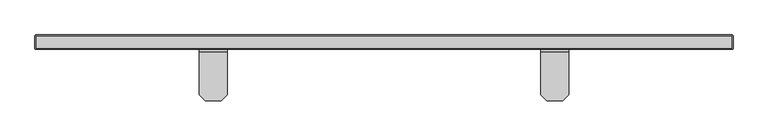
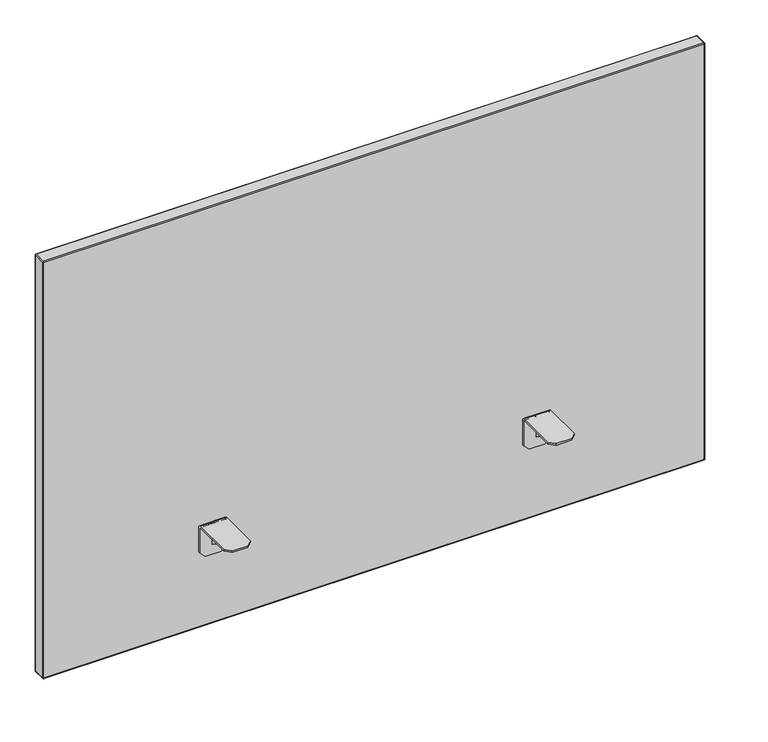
"""IFC4 building model written with IfcOpenShell, lengths in millimetres: furniture geometry, FREZZA_POP AD_Screen-for desk_Fabric : W1200 mm Structure_ZGBI - Embossed White & Finishing_D-King flex_XFGC."""

from ifc_helpers import new_model, si_unit, frame, origin, place, context, project, spatial, polyline, circle_curve, ellipse_curve, source, transform, mapped, element, save
from ifc_brep_helpers import plane_surface, cylinder_surface, revolved_surface, advanced_brep


def furniture_de1b5e3a(model_context):
    return source(origin(), model_context, "Body", "AdvancedBrep", [
        advanced_brep(
        [(1257.5, -8.0540949, 1185.0), (1257.5, -81.55, 1185.0), (1257.5, -81.55, 1182.0), (1257.5, -8.0035457, 1182.0), (1257.5, -6.55, 1180.5464543), (1257.5, -6.55, 1133.0), (1257.5, -3.55, 1133.0), (1257.5, -3.55, 1180.4959051), (1209.5, -8.0035457, 1182.0), (1209.5, -81.55, 1182.0), (1209.5, -81.55, 1185.0), (1209.5, -8.0540949, 1185.0), (1209.5, -3.55, 1180.4959051), (1209.5, -3.55, 1133.0), (1209.5, -6.55, 1133.0), (1209.5, -6.55, 1180.5464543), (1219.5, -91.55, 1185.0), (1247.5, -91.55, 1185.0), (1247.5, -3.55, 1123.0), (1219.5, -3.55, 1123.0), (1247.5, -6.55, 1123.0), (1219.5, -6.55, 1123.0), (1235.0, -6.55, 1180.5464543), (1235.0, -6.55, 1142.0), (1232.0, -6.55, 1142.0), (1232.0, -6.55, 1180.5464543), (1232.0, -8.0035457, 1182.0), (1235.0, -8.0035457, 1182.0), (1247.5, -91.55, 1182.0), (1219.5, -91.55, 1182.0), (1232.0, -69.55, 1182.0), (1235.0, -69.55, 1182.0)],
        [
            (0, 1),
            (1, 2),
            (2, 3),
            (3, 4, circle_curve(frame((1257.5, -8.0035457, 1180.5464543), z_axis=(-1.0, 0.0, 0.0), x_axis=(0.0, -1.0, 0.0)), 1.4535457)),
            (4, 5),
            (5, 6),
            (6, 7),
            (7, 0, circle_curve(frame((1257.5, -8.0540949, 1180.4959051), z_axis=(1.0, 0.0, 0.0), x_axis=(0.0, -1.0, 0.0)), 4.5040949)),
            (8, 9),
            (9, 10),
            (10, 11),
            (11, 12, circle_curve(frame((1209.5, -8.0540949, 1180.4959051), z_axis=(-1.0, 0.0, 0.0), x_axis=(0.0, -1.0, 0.0)), 4.5040949)),
            (12, 13),
            (13, 14),
            (14, 15),
            (15, 8, circle_curve(frame((1209.5, -8.0035457, 1180.5464543), z_axis=(1.0, 0.0, 0.0), x_axis=(0.0, -1.0, 0.0)), 1.4535457)),
            (10, 16),
            (16, 17),
            (17, 1),
            (0, 11),
            (7, 12),
            (6, 18),
            (18, 19),
            (19, 13),
            (18, 20),
            (20, 21),
            (21, 19),
            (4, 22),
            (22, 23),
            (23, 24),
            (24, 25),
            (25, 15),
            (14, 21),
            (20, 5),
            (25, 26, circle_curve(frame((1232.0, -8.0035457, 1180.5464543), z_axis=(1.0, 0.0, 0.0), x_axis=(0.0, -1.0, 0.0)), 1.4535457)),
            (26, 8),
            (3, 27),
            (27, 22, circle_curve(frame((1235.0, -8.0035457, 1180.5464543), z_axis=(-1.0, 0.0, 0.0), x_axis=(0.0, -1.0, 0.0)), 1.4535457)),
            (2, 28),
            (28, 29),
            (29, 9),
            (26, 30),
            (30, 31),
            (31, 27),
            (16, 29),
            (28, 17),
            (31, 23),
            (24, 30),
        ],
        [
            plane_surface(frame((1257.5, 1478.3708958, 1185.0), z_axis=(1.0, 0.0, 0.0), x_axis=(0.0, 1.0, 0.0))),
            plane_surface(frame((1209.5, 1478.3708958, 1185.0), z_axis=(-1.0, 0.0, 0.0), x_axis=(0.0, -1.0, 0.0))),
            plane_surface(frame((1257.5, -91.55, 1185.0), z_axis=(0.0, 0.0, 1.0), x_axis=(-1.0, 0.0, 0.0))),
            cylinder_surface(frame((1209.5, -8.0540949, 1180.4959051), z_axis=(1.0, 0.0, 0.0), x_axis=(0.0, -1.0, 0.0)), 4.5040949),
            plane_surface(frame((1257.5, -3.55, 1180.4959051), z_axis=(0.0, 1.0, 0.0), x_axis=(-1.0, 0.0, 0.0))),
            plane_surface(frame((1257.5, -3.55, 1123.0), z_axis=(0.0, 0.0, -1.0), x_axis=(-1.0, 0.0, 0.0))),
            plane_surface(frame((1257.5, -6.55, 1123.0), z_axis=(0.0, -1.0, 0.0), x_axis=(-1.0, 0.0, 0.0))),
            revolved_surface(polyline([(1209.5, -9.4570914, 1180.5464543), (1232.0, -9.4570914, 1180.5464543)]), (1209.5, -8.0035457, 1180.5464543), (-1.0, 0.0, 0.0)),
            revolved_surface(polyline([(1235.0, -9.4570914, 1180.5464543), (1257.5, -9.4570914, 1180.5464543)]), (1209.5, -8.0035457, 1180.5464543), (-1.0, 0.0, 0.0)),
            plane_surface(frame((1257.5, -8.0035457, 1182.0), z_axis=(0.0, 0.0, -1.0), x_axis=(-1.0, 0.0, 0.0))),
            plane_surface(frame((1257.5, -91.55, 1182.0), z_axis=(0.0, -1.0, 0.0), x_axis=(-1.0, 0.0, 0.0))),
            plane_surface(frame((1257.5, -3.55, 1133.0), z_axis=(0.7071067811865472, 0.0, -0.7071067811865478), x_axis=(0.0, -1.0, 0.0))),
            plane_surface(frame((1219.5, -3.55, 1123.0), z_axis=(-0.7071067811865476, 0.0, -0.7071067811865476), x_axis=(0.0, -1.0, 0.0))),
            plane_surface(frame((1247.5, -91.55, 1185.0), z_axis=(0.7071067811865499, -0.7071067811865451, 0.0), x_axis=(0.0, 0.0, -1.0))),
            plane_surface(frame((1209.5, -81.55, 1185.0), z_axis=(-0.7071067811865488, -0.7071067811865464, 0.0), x_axis=(0.0, 0.0, -1.0))),
            plane_surface(frame((1235.0, -69.55, 1182.0), z_axis=(1.0000000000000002, 0.0, 0.0), x_axis=(0.0, -0.8442128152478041, 0.5360081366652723))),
            plane_surface(frame((1232.0, -69.55, 1182.0), z_axis=(-1.0000000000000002, 0.0, 0.0), x_axis=(0.0, 0.8442128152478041, -0.5360081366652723))),
            plane_surface(frame((1235.0, -6.55, 1142.0), z_axis=(0.0, -0.5360081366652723, -0.8442128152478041), x_axis=(-1.0, 0.0, 0.0))),
        ],
        [
            (0, [[1, 2, 3, 4, 5, 6, 7, 8]]),
            (1, [[9, 10, 11, 12, 13, 14, 15, 16]]),
            (2, [[-11, 17, 18, 19, -1, 20]]),
            (3, [[21, -12, -20, -8]]),
            (4, [[-7, 22, 23, 24, -13, -21]]),
            (5, [[25, 26, 27, -23]]),
            (6, [[28, 29, 30, 31, 32, -15, 33, -26, 34, -5]]),
            (7, [[-32, 35, 36, -16]]),
            (8, [[37, 38, -28, -4]]),
            (9, [[39, 40, 41, -9, -36, 42, 43, 44, -37, -3]]),
            (10, [[45, -40, 46, -18]]),
            (11, [[-34, -25, -22, -6]]),
            (12, [[-24, -27, -33, -14]]),
            (13, [[-19, -46, -39, -2]]),
            (14, [[-41, -45, -17, -10]]),
            (15, [[-29, -38, -44, 47]]),
            (16, [[-42, -35, -31, 48]]),
            (17, [[-43, -48, -30, -47]]),
        ],
    ),
        advanced_brep(
        [(622.5, -8.0540949, 1185.0), (622.5, -3.55, 1180.4959051), (622.5, -3.55, 1133.0), (622.5, -6.55, 1133.0), (622.5, -6.55, 1180.5464543), (622.5, -8.0035457, 1182.0), (622.5, -81.55, 1182.0), (622.5, -81.55, 1185.0), (670.5, -8.0035457, 1182.0), (670.5, -6.55, 1180.5464543), (670.5, -6.55, 1133.0), (670.5, -3.55, 1133.0), (670.5, -3.55, 1180.4959051), (670.5, -8.0540949, 1185.0), (670.5, -81.55, 1185.0), (670.5, -81.55, 1182.0), (632.5, -91.55, 1185.0), (660.5, -91.55, 1185.0), (660.5, -3.55, 1123.0), (632.5, -3.55, 1123.0), (660.5, -6.55, 1123.0), (632.5, -6.55, 1123.0), (648.0, -6.55, 1180.5464543), (648.0, -6.55, 1142.0), (645.0, -6.55, 1142.0), (645.0, -6.55, 1180.5464543), (645.0, -8.0035457, 1182.0), (648.0, -8.0035457, 1182.0), (645.0, -69.55, 1182.0), (648.0, -69.55, 1182.0), (660.5, -91.55, 1182.0), (632.5, -91.55, 1182.0)],
        [
            (0, 1, circle_curve(frame((622.5, -8.0540949, 1180.4959051), z_axis=(-1.0, 0.0, 0.0), x_axis=(0.0, -1.0, 0.0)), 4.5040949)),
            (1, 2),
            (2, 3),
            (3, 4),
            (4, 5, circle_curve(frame((622.5, -8.0035457, 1180.5464543), z_axis=(1.0, 0.0, 0.0), x_axis=(0.0, -1.0, 0.0)), 1.4535457)),
            (5, 6),
            (6, 7),
            (7, 0),
            (8, 9, circle_curve(frame((670.5, -8.0035457, 1180.5464543), z_axis=(-1.0, 0.0, 0.0), x_axis=(0.0, -1.0, 0.0)), 1.4535457)),
            (9, 10),
            (10, 11),
            (11, 12),
            (12, 13, circle_curve(frame((670.5, -8.0540949, 1180.4959051), z_axis=(1.0, 0.0, 0.0), x_axis=(0.0, -1.0, 0.0)), 4.5040949)),
            (13, 14),
            (14, 15),
            (15, 8),
            (13, 0),
            (7, 16),
            (16, 17),
            (17, 14),
            (12, 1),
            (11, 18),
            (18, 19),
            (19, 2),
            (18, 20),
            (20, 21),
            (21, 19),
            (3, 21),
            (20, 10),
            (9, 22),
            (22, 23),
            (23, 24),
            (24, 25),
            (25, 4),
            (25, 26, circle_curve(frame((645.0, -8.0035457, 1180.5464543), z_axis=(1.0, 0.0, 0.0), x_axis=(0.0, -1.0, 0.0)), 1.4535457)),
            (26, 5),
            (8, 27),
            (27, 22, circle_curve(frame((648.0, -8.0035457, 1180.5464543), z_axis=(-1.0, 0.0, 0.0), x_axis=(0.0, -1.0, 0.0)), 1.4535457)),
            (26, 28),
            (28, 29),
            (29, 27),
            (15, 30),
            (30, 31),
            (31, 6),
            (16, 31),
            (30, 17),
            (24, 28),
            (29, 23),
        ],
        [
            plane_surface(frame((622.5, 1478.3708958, 1185.0), z_axis=(-1.0, 0.0, 0.0), x_axis=(0.0, 1.0, 0.0))),
            plane_surface(frame((670.5, 1478.3708958, 1185.0), z_axis=(1.0, 0.0, 0.0), x_axis=(0.0, -1.0, 0.0))),
            plane_surface(frame((622.5, -91.55, 1185.0), z_axis=(0.0, 0.0, 1.0), x_axis=(1.0, 0.0, 0.0))),
            cylinder_surface(frame((670.5, -8.0540949, 1180.4959051), z_axis=(-1.0, 0.0, 0.0), x_axis=(0.0, -1.0, 0.0)), 4.5040949),
            plane_surface(frame((622.5, -3.55, 1180.4959051), z_axis=(0.0, 1.0, 0.0), x_axis=(1.0, 0.0, 0.0))),
            plane_surface(frame((622.5, -3.55, 1123.0), z_axis=(0.0, 0.0, -1.0), x_axis=(1.0, 0.0, 0.0))),
            plane_surface(frame((622.5, -6.55, 1123.0), z_axis=(0.0, -1.0, 0.0), x_axis=(1.0, 0.0, 0.0))),
            revolved_surface(polyline([(645.0, -9.4570914, 1180.5464543), (622.5, -9.4570914, 1180.5464543)]), (670.5, -8.0035457, 1180.5464543), (1.0, 0.0, 0.0)),
            revolved_surface(polyline([(670.5, -9.4570914, 1180.5464543), (648.0, -9.4570914, 1180.5464543)]), (670.5, -8.0035457, 1180.5464543), (1.0, 0.0, 0.0)),
            plane_surface(frame((622.5, -8.0035457, 1182.0), z_axis=(0.0, 0.0, -1.0), x_axis=(1.0, 0.0, 0.0))),
            plane_surface(frame((622.5, -91.55, 1182.0), z_axis=(0.0, -1.0, 0.0), x_axis=(1.0, 0.0, 0.0))),
            plane_surface(frame((622.5, -3.55, 1133.0), z_axis=(-0.7071067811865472, 0.0, -0.7071067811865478), x_axis=(0.0, -1.0, 0.0))),
            plane_surface(frame((660.5, -3.55, 1123.0), z_axis=(0.7071067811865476, 0.0, -0.7071067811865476), x_axis=(0.0, -1.0, 0.0))),
            plane_surface(frame((632.5, -91.55, 1185.0), z_axis=(-0.7071067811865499, -0.7071067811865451, 0.0), x_axis=(0.0, 0.0, -1.0))),
            plane_surface(frame((670.5, -81.55, 1185.0), z_axis=(0.7071067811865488, -0.7071067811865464, 0.0), x_axis=(0.0, 0.0, -1.0))),
            plane_surface(frame((645.0, -69.55, 1182.0), z_axis=(-1.0000000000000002, 0.0, 0.0), x_axis=(0.0, -0.8442128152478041, 0.5360081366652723))),
            plane_surface(frame((648.0, -69.55, 1182.0), z_axis=(1.0000000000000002, 0.0, 0.0), x_axis=(0.0, 0.8442128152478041, -0.5360081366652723))),
            plane_surface(frame((645.0, -6.55, 1142.0), z_axis=(0.0, -0.5360081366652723, -0.8442128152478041), x_axis=(1.0, 0.0, 0.0))),
        ],
        [
            (0, [[1, 2, 3, 4, 5, 6, 7, 8]]),
            (1, [[9, 10, 11, 12, 13, 14, 15, 16]]),
            (2, [[17, -8, 18, 19, 20, -14]]),
            (3, [[-1, -17, -13, 21]]),
            (4, [[-21, -12, 22, 23, 24, -2]]),
            (5, [[-23, 25, 26, 27]]),
            (6, [[-4, 28, -26, 29, -10, 30, 31, 32, 33, 34]]),
            (7, [[-5, -34, 35, 36]]),
            (8, [[-9, 37, 38, -30]]),
            (9, [[-6, -36, 39, 40, 41, -37, -16, 42, 43, 44]]),
            (10, [[-19, 45, -43, 46]]),
            (11, [[-3, -24, -27, -28]]),
            (12, [[-11, -29, -25, -22]]),
            (13, [[-7, -44, -45, -18]]),
            (14, [[-15, -20, -46, -42]]),
            (15, [[47, -39, -35, -33]]),
            (16, [[48, -31, -38, -41]]),
            (17, [[-47, -32, -48, -40]]),
        ],
    ),
        advanced_brep(
        [(1538.0, 21.45, 1786.0), (1538.0, 21.45, 990.0), (342.0, 21.45, 990.0), (342.0, 21.45, 1786.0), (1538.0, -3.55, 990.0), (1538.0, -3.55, 1786.0), (342.0, -3.55, 1786.0), (342.0, -3.55, 990.0), (1538.0, -1.55, 988.0), (342.0, -1.55, 988.0), (342.0, 4.45, 988.0), (1538.0, 4.45, 988.0), (342.0, 19.45, 988.0), (1538.0, 19.45, 988.0), (1538.0, 13.45, 988.0), (342.0, 13.45, 988.0), (340.0, 19.45, 990.0), (340.0, -1.55, 990.0), (340.0, -1.55, 1786.0), (340.0, 19.45, 1786.0), (342.0, 19.45, 1788.0), (342.0, -1.55, 1788.0), (1538.0, -1.55, 1788.0), (1538.0, 19.45, 1788.0), (1540.0, 19.45, 1786.0), (1540.0, -1.55, 1786.0), (1540.0, -1.55, 990.0), (1540.0, 19.45, 990.0), (340.5857864, 20.8642136, 1787.4142136), (340.5857864, -2.9642136, 1787.4142136), (340.5857864, 20.8642136, 988.5857864), (340.5857864, -2.9642136, 988.5857864), (1539.4142136, 20.8642136, 1787.4142136), (1539.4142136, -2.9642136, 1787.4142136), (1539.4142136, -2.9642136, 988.5857864), (1539.4142136, 20.8642136, 988.5857864), (342.0, 4.45, 992.0), (342.0, 13.45, 992.0), (1538.0, 4.45, 992.0), (1538.0, 13.45, 992.0)],
        [
            (0, 1),
            (1, 2),
            (2, 3),
            (3, 0),
            (4, 5),
            (5, 6),
            (6, 7),
            (7, 4),
            (8, 9),
            (9, 10),
            (10, 11),
            (11, 8),
            (12, 13),
            (13, 14),
            (14, 15),
            (15, 12),
            (16, 17),
            (17, 18),
            (18, 19),
            (19, 16),
            (20, 21),
            (21, 22),
            (22, 23),
            (23, 20),
            (24, 25),
            (25, 26),
            (26, 27),
            (27, 24),
            (20, 28, ellipse_curve(frame((342.0, 19.45, 1786.0), z_axis=(-0.7071067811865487, -0.7071067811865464, 0.0), x_axis=(-0.7071067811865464, 0.7071067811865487, 0.0)), 2.8284271, 2.0)),
            (28, 19, ellipse_curve(frame((342.0, 19.45, 1786.0), z_axis=(0.0, -0.7071067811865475, 0.7071067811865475), x_axis=(0.0, 0.7071067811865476, 0.7071067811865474)), 2.8284271, 2.0)),
            (18, 29, ellipse_curve(frame((342.0, -1.55, 1786.0), z_axis=(0.0, 0.7071067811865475, 0.7071067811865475), x_axis=(0.0, 0.7071067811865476, -0.7071067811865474)), 2.8284271, 2.0)),
            (29, 21, ellipse_curve(frame((342.0, -1.55, 1786.0), z_axis=(-0.7071067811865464, 0.7071067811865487, 0.0), x_axis=(0.7071067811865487, 0.7071067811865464, 0.0)), 2.8284271, 2.0)),
            (16, 30, ellipse_curve(frame((342.0, 19.45, 990.0), z_axis=(0.0, -0.7071067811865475, -0.7071067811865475), x_axis=(0.0, 0.7071067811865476, -0.7071067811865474)), 2.8284271, 2.0)),
            (30, 12, ellipse_curve(frame((342.0, 19.45, 990.0), z_axis=(-0.7071067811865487, -0.7071067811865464, 0.0), x_axis=(-0.7071067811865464, 0.7071067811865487, 0.0)), 2.8284271, 2.0)),
            (15, 10),
            (9, 31, ellipse_curve(frame((342.0, -1.55, 990.0), z_axis=(-0.7071067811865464, 0.7071067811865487, 0.0), x_axis=(0.7071067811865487, 0.7071067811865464, 0.0)), 2.8284271, 2.0)),
            (31, 17, ellipse_curve(frame((342.0, -1.55, 990.0), z_axis=(0.0, 0.7071067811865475, -0.7071067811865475), x_axis=(0.0, 0.7071067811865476, 0.7071067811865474)), 2.8284271, 2.0)),
            (24, 32, ellipse_curve(frame((1538.0, 19.45, 1786.0), z_axis=(0.0, -0.7071067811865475, 0.7071067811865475), x_axis=(0.0, 0.7071067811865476, 0.7071067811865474)), 2.8284271, 2.0)),
            (32, 23, ellipse_curve(frame((1538.0, 19.45, 1786.0), z_axis=(0.7071067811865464, -0.7071067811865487, 0.0), x_axis=(0.7071067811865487, 0.7071067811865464, 0.0)), 2.8284271, 2.0)),
            (22, 33, ellipse_curve(frame((1538.0, -1.55, 1786.0), z_axis=(0.7071067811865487, 0.7071067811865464, 0.0), x_axis=(-0.7071067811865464, 0.7071067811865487, 0.0)), 2.8284271, 2.0)),
            (33, 25, ellipse_curve(frame((1538.0, -1.55, 1786.0), z_axis=(0.0, 0.7071067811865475, 0.7071067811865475), x_axis=(0.0, 0.7071067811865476, -0.7071067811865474)), 2.8284271, 2.0)),
            (26, 34, ellipse_curve(frame((1538.0, -1.55, 990.0), z_axis=(0.0, 0.7071067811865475, -0.7071067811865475), x_axis=(0.0, 0.7071067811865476, 0.7071067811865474)), 2.8284271, 2.0)),
            (34, 8, ellipse_curve(frame((1538.0, -1.55, 990.0), z_axis=(0.7071067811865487, 0.7071067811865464, 0.0), x_axis=(-0.7071067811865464, 0.7071067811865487, 0.0)), 2.8284271, 2.0)),
            (11, 14),
            (13, 35, ellipse_curve(frame((1538.0, 19.45, 990.0), z_axis=(0.7071067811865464, -0.7071067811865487, 0.0), x_axis=(0.7071067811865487, 0.7071067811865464, 0.0)), 2.8284271, 2.0)),
            (35, 27, ellipse_curve(frame((1538.0, 19.45, 990.0), z_axis=(0.0, -0.7071067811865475, -0.7071067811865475), x_axis=(0.0, 0.7071067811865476, -0.7071067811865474)), 2.8284271, 2.0)),
            (4, 34, ellipse_curve(frame((1538.0, -1.55, 990.0), z_axis=(0.7071067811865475, 0.0, 0.7071067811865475), x_axis=(0.7071067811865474, 0.0, -0.7071067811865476)), 2.8284271, 2.0)),
            (33, 5, ellipse_curve(frame((1538.0, -1.55, 1786.0), z_axis=(0.7071067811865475, 0.0, -0.7071067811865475), x_axis=(-0.7071067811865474, 0.0, -0.7071067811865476)), 2.8284271, 2.0)),
            (35, 1, ellipse_curve(frame((1538.0, 19.45, 990.0), z_axis=(0.7071067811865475, 0.0, 0.7071067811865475), x_axis=(0.7071067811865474, 0.0, -0.7071067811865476)), 2.8284271, 2.0)),
            (0, 32, ellipse_curve(frame((1538.0, 19.45, 1786.0), z_axis=(0.7071067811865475, 0.0, -0.7071067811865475), x_axis=(-0.7071067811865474, 0.0, -0.7071067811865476)), 2.8284271, 2.0)),
            (7, 31, ellipse_curve(frame((342.0, -1.55, 990.0), z_axis=(0.7071067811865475, 0.0, -0.7071067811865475), x_axis=(-0.7071067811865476, 0.0, -0.7071067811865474)), 2.8284271, 2.0)),
            (30, 2, ellipse_curve(frame((342.0, 19.45, 990.0), z_axis=(0.7071067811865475, 0.0, -0.7071067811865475), x_axis=(-0.7071067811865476, 0.0, -0.7071067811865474)), 2.8284271, 2.0)),
            (6, 29, ellipse_curve(frame((342.0, -1.55, 1786.0), z_axis=(-0.7071067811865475, 0.0, -0.7071067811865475), x_axis=(-0.7071067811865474, 0.0, 0.7071067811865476)), 2.8284271, 2.0)),
            (28, 3, ellipse_curve(frame((342.0, 19.45, 1786.0), z_axis=(-0.7071067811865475, 0.0, -0.7071067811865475), x_axis=(-0.7071067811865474, 0.0, 0.7071067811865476)), 2.8284271, 2.0)),
            (36, 10),
            (15, 37),
            (37, 36),
            (38, 39),
            (39, 14),
            (11, 38),
            (37, 39),
            (38, 36),
        ],
        [
            plane_surface(frame((342.0, 21.45, 988.0), z_axis=(0.0, 1.0, 0.0), x_axis=(-1.0, 0.0, 0.0))),
            plane_surface(frame((342.0, -3.55, 988.0), z_axis=(0.0, -1.0, 0.0), x_axis=(1.0, 0.0, 0.0))),
            plane_surface(frame((1538.0, 21.45, 988.0), z_axis=(0.0, 0.0, -1.0), x_axis=(0.0, -1.0, 0.0))),
            plane_surface(frame((340.0, 21.45, 990.0), z_axis=(-1.0, 0.0, 0.0), x_axis=(0.0, -1.0, 0.0))),
            plane_surface(frame((342.0, 21.45, 1788.0), z_axis=(0.0, 0.0, 1.0), x_axis=(0.0, -1.0, 0.0))),
            plane_surface(frame((1540.0, 21.45, 1786.0), z_axis=(1.0, 0.0, 0.0), x_axis=(0.0, -1.0, 0.0))),
            cylinder_surface(frame((342.0, -3.55, 1786.0), z_axis=(0.0, 1.0, 0.0), x_axis=(-1.0, 0.0, 0.0)), 2.0),
            cylinder_surface(frame((342.0, -3.55, 990.0), z_axis=(0.0, 1.0, 0.0), x_axis=(-1.0, 0.0, 0.0)), 2.0),
            cylinder_surface(frame((1538.0, -3.55, 1786.0), z_axis=(0.0, 1.0, 0.0), x_axis=(-1.0, 0.0, 0.0)), 2.0),
            cylinder_surface(frame((1538.0, -3.55, 990.0), z_axis=(0.0, 1.0, 0.0), x_axis=(-1.0, 0.0, 0.0)), 2.0),
            cylinder_surface(frame((1538.0, -1.55, 1788.0), z_axis=(0.0, 0.0, -1.0), x_axis=(-1.0, 0.0, 0.0)), 2.0),
            cylinder_surface(frame((1538.0, 19.45, 1788.0), z_axis=(0.0, 0.0, -1.0), x_axis=(-1.0, 0.0, 0.0)), 2.0),
            cylinder_surface(frame((1540.0, -1.55, 990.0), z_axis=(-1.0, 0.0, 0.0), x_axis=(0.0, 0.0, 1.0)), 2.0),
            cylinder_surface(frame((1540.0, 19.45, 990.0), z_axis=(-1.0, 0.0, 0.0), x_axis=(0.0, 0.0, 1.0)), 2.0),
            cylinder_surface(frame((342.0, -1.55, 988.0), z_axis=(0.0, 0.0, 1.0), x_axis=(1.0, 0.0, 0.0)), 2.0),
            cylinder_surface(frame((342.0, 19.45, 988.0), z_axis=(0.0, 0.0, 1.0), x_axis=(1.0, 0.0, 0.0)), 2.0),
            cylinder_surface(frame((340.0, -1.55, 1786.0), z_axis=(1.0, 0.0, 0.0), x_axis=(0.0, 0.0, -1.0)), 2.0),
            cylinder_surface(frame((340.0, 19.45, 1786.0), z_axis=(1.0, 0.0, 0.0), x_axis=(0.0, 0.0, -1.0)), 2.0),
            plane_surface(frame((342.0, 4.45, 992.0), z_axis=(1.0, 0.0, 0.0), x_axis=(0.0, 1.0, 0.0))),
            plane_surface(frame((1538.0, 4.45, 992.0), z_axis=(-1.0, 0.0, 0.0), x_axis=(0.0, -1.0, 0.0))),
            plane_surface(frame((342.0, 4.45, 992.0), z_axis=(0.0, 0.0, -1.0), x_axis=(1.0, 0.0, 0.0))),
            plane_surface(frame((342.0, 13.45, 992.0), z_axis=(0.0, -1.0, 0.0), x_axis=(1.0, 0.0, 0.0))),
            plane_surface(frame((342.0, 4.45, 988.0), z_axis=(0.0, 1.0, 0.0), x_axis=(1.0, 0.0, 0.0))),
        ],
        [
            (0, [[1, 2, 3, 4]]),
            (1, [[5, 6, 7, 8]]),
            (2, [[9, 10, 11, 12]]),
            (2, [[13, 14, 15, 16]]),
            (3, [[17, 18, 19, 20]]),
            (4, [[21, 22, 23, 24]]),
            (5, [[25, 26, 27, 28]]),
            (6, [[-21, 29, 30, -19, 31, 32]]),
            (7, [[-17, 33, 34, -16, 35, -10, 36, 37]]),
            (8, [[-25, 38, 39, -23, 40, 41]]),
            (9, [[-27, 42, 43, -12, 44, -14, 45, 46]]),
            (10, [[47, -42, -26, -41, 48, -5]]),
            (11, [[49, -1, 50, -38, -28, -46]]),
            (12, [[-47, -8, 51, -36, -9, -43]]),
            (13, [[-49, -45, -13, -34, 52, -2]]),
            (14, [[-51, -7, 53, -31, -18, -37]]),
            (15, [[-52, -33, -20, -30, 54, -3]]),
            (16, [[-53, -6, -48, -40, -22, -32]]),
            (17, [[-54, -29, -24, -39, -50, -4]]),
            (18, [[55, -35, 56, 57]]),
            (19, [[58, 59, -44, 60]]),
            (20, [[-57, 61, -58, 62]]),
            (21, [[-56, -15, -59, -61]]),
            (22, [[-55, -62, -60, -11]]),
        ],
    ),
    ])


if __name__ == "__main__":
    model = new_model("IFC4")
    model_context = context("Model", 3, world=origin())
    ifc_project = project(units=[si_unit("LENGTHUNIT", "METRE", prefix="MILLI")], contexts=[model_context])
    site = spatial("IfcSite", under=ifc_project)
    building = spatial("IfcBuilding", under=site)
    placement = place(None, origin())
    furniture_shape = furniture_de1b5e3a(model_context)
    element("IfcFurniture", 1, ObjectType="FREZZA_POP AD_Screen-for desk_Fabric : W1200 mm Structure_ZGBI - Embossed White & Finishing_D-King flex_XFGC", at=placement, inside=building, context=model_context, shape_type="MappedRepresentation", body=[
        mapped(furniture_shape, transform((0.0, 0.0, 0.0), x_axis=(1.0, 0.0, 0.0), y_axis=(0.0, 1.0, 0.0), z_axis=(0.0, 0.0, 1.0))),
    ])
    save(model, "model.ifc")
